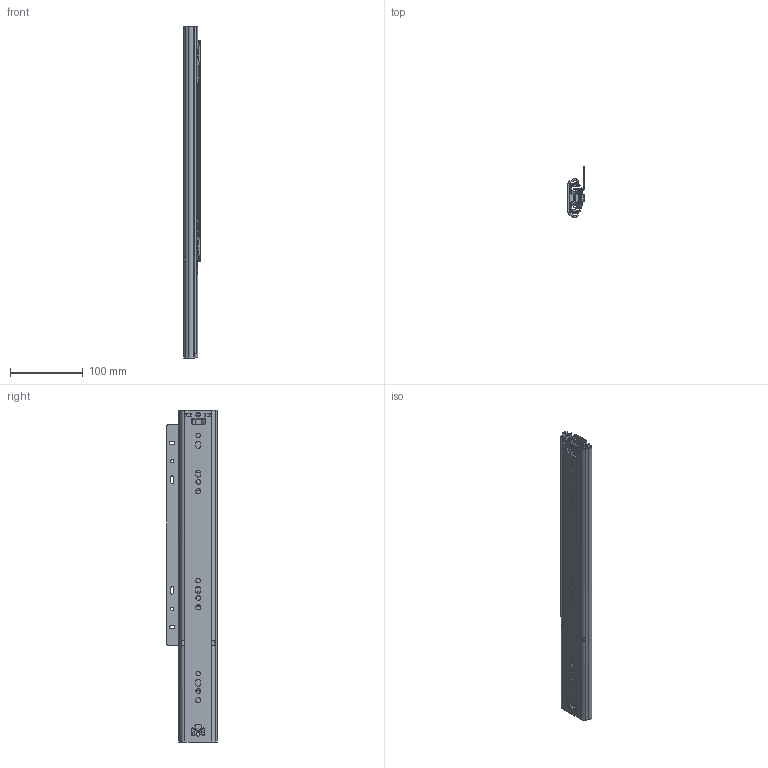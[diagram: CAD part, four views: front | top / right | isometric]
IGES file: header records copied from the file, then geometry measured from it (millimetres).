
Global section: file name: No Iges File Name specified; native system: Autodesk Inventor 2012; preprocessor: AutoDesk Inventor Iges Exporter R2012; author: HV83751; date: 20130708.090005; units: inch
Bounding box: 22.61 x 70.18 x 457.21 mm (x, y, z)
Surface area: 217990 mm2
Topology: 6 solids, 27 shells, 1475 faces, 4351 edges, 2804 vertices
Faces by surface type: plane 746, revolution 386, cylinder 292, bspline 42, torus 9
